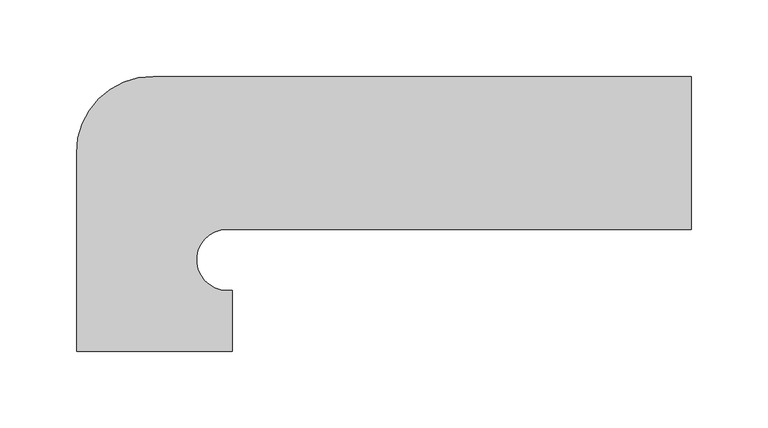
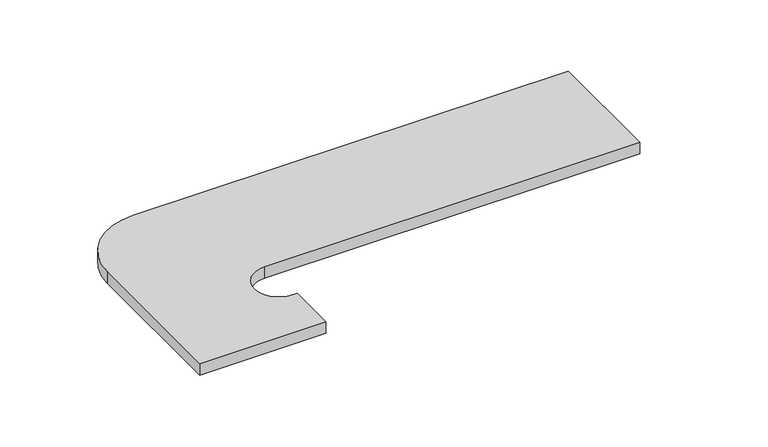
"""IFC4 building model written with IfcOpenShell, lengths in millimetres: proxy geometry, EXAGRES - Step Skirting ML 39.5x17.5 : Exagres_Orobico_Gris_Left."""

import ifcopenshell
import ifcopenshell.guid

model = None  # the IFC model being written
_history = None  # IfcOwnerHistory: only IFC2X3 demands one
_inside = {}  # id of a spatial element -> (the spatial element, [elements in it])
_under = {}  # id of a project, library or spatial element -> (it, [spatial elements below it])
_declared = {}  # id of a project -> (the project, [libraries it declares])
_typed = {}  # id of a type object -> (the type object, [elements of that type])
_made_of = {}  # id of a material, layer set ... -> (it, [elements and type objects made of it])


def new_model(schema):
    """Start an empty IFC model of exactly this schema.

    Asked for "IFC4X3", IfcOpenShell would pick the latest addendum, in which some entities
    have other attributes; the version numbers below select the first issue.
    IFC2X3 requires an IfcOwnerHistory on every rooted entity: one is made here for all.
    """
    global model, _history
    if schema == "IFC4X3":
        model = ifcopenshell.file(schema_version=(4, 3, 0, 0))
    else:
        model = ifcopenshell.file(schema=schema)
    _inside.clear()
    _under.clear()
    _declared.clear()
    _typed.clear()
    _made_of.clear()
    _history = None
    if model.schema == "IFC2X3":
        org = make("IfcOrganization", Name="unknown")
        user = make(
            "IfcPersonAndOrganization",
            ThePerson=make("IfcPerson", FamilyName="unknown"),
            TheOrganization=org,
        )
        app = make(
            "IfcApplication",
            ApplicationDeveloper=org,
            Version="unknown",
            ApplicationFullName="unknown",
            ApplicationIdentifier="unknown",
        )
        _history = make(
            "IfcOwnerHistory",
            OwningUser=user,
            OwningApplication=app,
            ChangeAction="ADDED",
            CreationDate=0,
        )
    return model


def make(cls, **values):
    """One entity of the class cls with the attributes given. An attribute that is None is left unset."""
    return model.create_entity(
        cls, **{name: value for name, value in values.items() if value is not None}
    )


def rooted(cls, **values):
    """An entity with a GlobalId (a new one), such as an element, a storey or a relation."""
    return make(cls, GlobalId=ifcopenshell.guid.new(), OwnerHistory=_history, **values)


def si_unit(unit_type, name, prefix=None):
    """IfcSIUnit, for example si_unit("LENGTHUNIT", "METRE", prefix="MILLI")."""
    return make("IfcSIUnit", UnitType=unit_type, Prefix=prefix, Name=name)


def assignment(units):
    """IfcUnitAssignment: the units of a project."""
    return None if units is None else make("IfcUnitAssignment", Units=units)


def point(xyz):
    """IfcCartesianPoint."""
    return None if xyz is None else make("IfcCartesianPoint", Coordinates=xyz)


def direction(xyz):
    """IfcDirection."""
    return None if xyz is None else make("IfcDirection", DirectionRatios=xyz)


def frame(location, z_axis=None, x_axis=None):
    """IfcAxis2Placement3D, a coordinate frame: its origin and axes. An axis left out is left unset."""
    return make(
        "IfcAxis2Placement3D",
        Location=point(location),
        Axis=direction(z_axis),
        RefDirection=direction(x_axis),
    )


def frame_2d(location, x_axis=None):
    """IfcAxis2Placement2D, a coordinate frame in the plane: its origin and x axis."""
    return make(
        "IfcAxis2Placement2D", Location=point(location), RefDirection=direction(x_axis)
    )


def origin():
    """The frame at (0, 0, 0) with its axes left unset."""
    return frame((0.0, 0.0, 0.0))


def origin_with_axes():
    """The frame at (0, 0, 0) with the z axis (0, 0, 1) and the x axis (1, 0, 0) written out."""
    return frame((0.0, 0.0, 0.0), z_axis=(0.0, 0.0, 1.0), x_axis=(1.0, 0.0, 0.0))


def place(relative_to, where):
    """IfcLocalPlacement: puts the frame where relative to a parent placement (None: the world)."""
    return make(
        "IfcLocalPlacement", PlacementRelTo=relative_to, RelativePlacement=where
    )


def context(
    kind, dimensions, precision=None, world=None, true_north=None, identifier=None
):
    """IfcGeometricRepresentationContext, for example the 3D "Model" context."""
    return make(
        "IfcGeometricRepresentationContext",
        ContextIdentifier=identifier,
        ContextType=kind,
        CoordinateSpaceDimension=dimensions,
        Precision=precision,
        WorldCoordinateSystem=world,
        TrueNorth=true_north,
    )


def project(units=None, contexts=None):
    """IfcProject with its units and contexts."""
    return rooted(
        "IfcProject",
        Name="project",
        RepresentationContexts=contexts,
        UnitsInContext=assignment(units),
    )


def spatial(cls, under=None, at=None, **own):
    """A site, building, storey or space (cls), placed at a placement, below another one or the project."""
    s = rooted(cls, ObjectPlacement=at, **own)
    if under is not None:
        _under.setdefault(under.id(), (under, []))[1].append(s)
    return s


def polyline(points):
    """IfcPolyline through the points."""
    return make("IfcPolyline", Points=[point(p) for p in points])


def circle_curve(where, radius):
    """IfcCircle in the frame where."""
    return make("IfcCircle", Position=where, Radius=radius)


def trimmed(basis, trim1, trim2, sense, master):
    """IfcTrimmedCurve: the piece of a basis curve between two trims."""
    return make(
        "IfcTrimmedCurve",
        BasisCurve=basis,
        Trim1=trim1,
        Trim2=trim2,
        SenseAgreement=sense,
        MasterRepresentation=master,
    )


def segment(curve, same_sense, transition):
    """IfcCompositeCurveSegment."""
    return make(
        "IfcCompositeCurveSegment",
        Transition=transition,
        SameSense=same_sense,
        ParentCurve=curve,
    )


def composite_curve(segments, self_intersect=None):
    """IfcCompositeCurve: segments joined end to end."""
    return make("IfcCompositeCurve", Segments=segments, SelfIntersect=self_intersect)


def outline(outer, holes=None, kind="AREA"):
    """IfcArbitraryClosedProfileDef: a profile drawn as a closed curve; with holes, ...WithVoids."""
    if holes is None:
        return make("IfcArbitraryClosedProfileDef", ProfileType=kind, OuterCurve=outer)
    return make(
        "IfcArbitraryProfileDefWithVoids",
        ProfileType=kind,
        OuterCurve=outer,
        InnerCurves=holes,
    )


def extrude(swept, where, along, depth):
    """IfcExtrudedAreaSolid: the profile swept, set in the frame where, extruded along a direction by depth."""
    return make(
        "IfcExtrudedAreaSolid",
        SweptArea=swept,
        Position=where,
        ExtrudedDirection=direction(along),
        Depth=depth,
    )


def shape(context_of_items, identifier, shape_type, items):
    """IfcShapeRepresentation: the items that make up one representation, for example the "Body"."""
    return make(
        "IfcShapeRepresentation",
        ContextOfItems=context_of_items,
        RepresentationIdentifier=identifier,
        RepresentationType=shape_type,
        Items=items,
    )


def source(mapping_origin, context_of_items, identifier, shape_type, items):
    """IfcRepresentationMap: a shape defined once, which mapped items show again and again."""
    return make(
        "IfcRepresentationMap",
        MappingOrigin=mapping_origin,
        MappedRepresentation=shape(context_of_items, identifier, shape_type, items),
    )


def transform(
    local_origin,
    x_axis=None,
    y_axis=None,
    z_axis=None,
    scale=None,
    scale2=None,
    scale3=None,
    uniform=True,
):
    """IfcCartesianTransformationOperator3D, or its non-uniform kind. x_axis, y_axis, z_axis: its Axis1, 2, 3."""
    if uniform:
        return make(
            "IfcCartesianTransformationOperator3D",
            Axis1=direction(x_axis),
            Axis2=direction(y_axis),
            LocalOrigin=point(local_origin),
            Scale=scale,
            Axis3=direction(z_axis),
        )
    return make(
        "IfcCartesianTransformationOperator3DnonUniform",
        Axis1=direction(x_axis),
        Axis2=direction(y_axis),
        LocalOrigin=point(local_origin),
        Scale=scale,
        Axis3=direction(z_axis),
        Scale2=scale2,
        Scale3=scale3,
    )


def mapped(mapping_source, mapping_target):
    """IfcMappedItem: shows the shape of a source again, moved by a transform."""
    return make(
        "IfcMappedItem", MappingSource=mapping_source, MappingTarget=mapping_target
    )


def made_of(thing, what):
    """Note that an element or type object is made of a material, layer set ...; save() writes the relation."""
    if what is not None:
        _made_of.setdefault(what.id(), (what, []))[1].append(thing)
    return thing


def element(
    cls,
    number,
    at=None,
    inside=None,
    cuts=None,
    type_object=None,
    material=None,
    context=None,
    identifier="Body",
    shape_type=None,
    held_by="IfcProductDefinitionShape",
    body=None,
    shapes=None,
    **own,
):
    """One element of the class cls, such as IfcWall. Its Tag is "e" and its number.

    at: its placement. inside: the storey or other place that contains it. cuts: it is an
    opening in that element (IfcRelVoidsElement). A single representation is given by context,
    identifier, shape_type and body (its items); several are given by shapes. held_by: the class
    of the entity that holds the representations. save() writes the other relations.
    """
    e = rooted(cls, Tag="e%d" % number, ObjectPlacement=at, **own)
    if body is not None:
        shapes = [shape(context, identifier, shape_type, body)]
    if shapes is not None:
        e.Representation = make(held_by, Representations=shapes)
    if inside is not None:
        _inside.setdefault(inside.id(), (inside, []))[1].append(e)
    if cuts is not None:
        rooted(
            "IfcRelVoidsElement", RelatingBuildingElement=cuts, RelatedOpeningElement=e
        )
    if type_object is not None:
        _typed.setdefault(type_object.id(), (type_object, []))[1].append(e)
    return made_of(e, material)


def aggregate(whole, parts):
    """IfcRelAggregates: a whole, such as a stair, and the parts it consists of."""
    return rooted("IfcRelAggregates", RelatingObject=whole, RelatedObjects=parts)


def save(model, path):
    """Write the relations noted so far, then the file.

    IfcRelAggregates (storeys below a building ...), IfcRelContainedInSpatialStructure (elements
    in a storey), IfcRelDefinesByType, IfcRelAssociatesMaterial and IfcRelDeclares: one each for
    every whole, place, type object, material and project.
    """
    for whole, parts in _under.values():
        aggregate(whole, parts)
    for where, things in _inside.values():
        rooted(
            "IfcRelContainedInSpatialStructure",
            RelatedElements=things,
            RelatingStructure=where,
        )
    for kind, things in _typed.values():
        rooted("IfcRelDefinesByType", RelatedObjects=things, RelatingType=kind)
    for what, things in _made_of.values():
        rooted("IfcRelAssociatesMaterial", RelatedObjects=things, RelatingMaterial=what)
    for by, libraries in _declared.values():
        rooted("IfcRelDeclares", RelatingContext=by, RelatedDefinitions=libraries)
    model.write(path)


def generic_models_c79c0e69(model_context):
    return source(origin(), model_context, "Body", "SweptSolid", [
        extrude(outline(composite_curve([segment(polyline([(303.5, 0.0), (0.0, 0.0)]), True, "CONTINUOUS"), segment(trimmed(circle_curve(frame_2d((0.0, -20.0)), 20.0), [point((0.0, 0.0))], [point((0.0, -40.0))], True, "CARTESIAN"), True, "CONTINUOUS"), segment(polyline([(0.0, -40.0), (3.5, -40.0), (3.5, -80.0), (-98.4135674, -80.0), (-98.4135674, 50.0)]), True, "CONTINUOUS"), segment(trimmed(circle_curve(frame_2d((-48.4135674, 50.0)), 50.0), [point((-98.4135674, 50.0))], [point((-48.4135674, 100.0))], False, "CARTESIAN"), True, "CONTINUOUS"), segment(polyline([(-48.4135674, 100.0), (303.5, 100.0), (303.5, 0.0)]), True, "CONTINUOUS")], self_intersect=False)), origin_with_axes(), (0.0, 0.0, 1.0), 10.0),
    ])


if __name__ == "__main__":
    model = new_model("IFC4")
    model_context = context("Model", 3, world=origin())
    ifc_project = project(units=[si_unit("LENGTHUNIT", "METRE", prefix="MILLI")], contexts=[model_context])
    site = spatial("IfcSite", under=ifc_project)
    building = spatial("IfcBuilding", under=site)
    placement = place(None, origin())
    generic_models_shape = generic_models_c79c0e69(model_context)
    element("IfcBuildingElementProxy", 1, Name="EXAGRES - Step Skirting ML 39.5x17.5 : Exagres_Orobico_Gris_Left", ObjectType="EXAGRES - Step Skirting ML 39.5x17.5 : Exagres_Orobico_Gris_Left", at=placement, inside=building, context=model_context, shape_type="MappedRepresentation", body=[
        mapped(generic_models_shape, transform((0.0, 0.0, 0.0), x_axis=(1.0, 0.0, 0.0), y_axis=(0.0, 1.0, 0.0), z_axis=(0.0, 0.0, 1.0))),
    ])
    save(model, "model.ifc")
